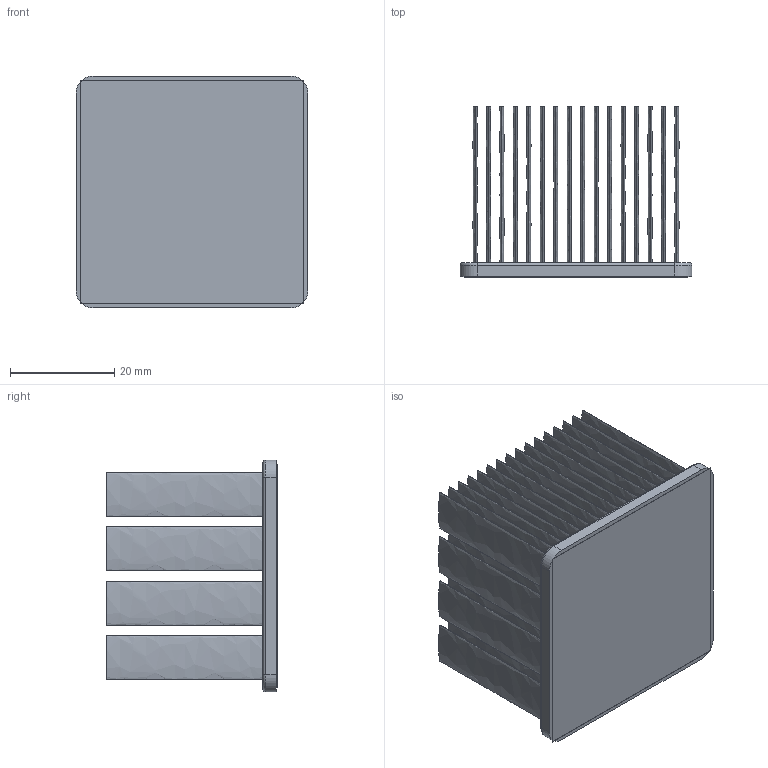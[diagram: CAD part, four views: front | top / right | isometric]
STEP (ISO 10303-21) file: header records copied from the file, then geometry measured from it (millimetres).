
FILE_DESCRIPTION (( 'STEP AP214' ), '1' );
FILE_NAME ('INM45001-33W-2.6.STEP', '2023-02-28T00:52:05', ( '' ), ( '' ), 'SwSTEP 2.0', 'SolidWorks 2020', '' );
FILE_SCHEMA (( 'AUTOMOTIVE_DESIGN' ));
Length unit declared in the file: inch
Products named in the file (1): INM45001-33W-2.6
Bounding box: 44.6 x 32.73 x 44.6 mm (x, y, z)
Volume: 15771.5 mm3; surface area: 41152.3 mm2
Topology: 2 solids, 2 shells, 216 faces, 436 edges, 288 vertices
Faces by surface type: bspline 128, plane 76, cylinder 8, torus 4
Entity records: 8759 total; most frequent: CARTESIAN_POINT 2605, ORIENTED_EDGE 872, EDGE_CURVE 436, DIRECTION 378, VERTEX_POINT 288, EDGE_LOOP 280, DIMENSIONAL_EXPONENTS 220, LENGTH_MEASURE_WITH_UNIT 220
